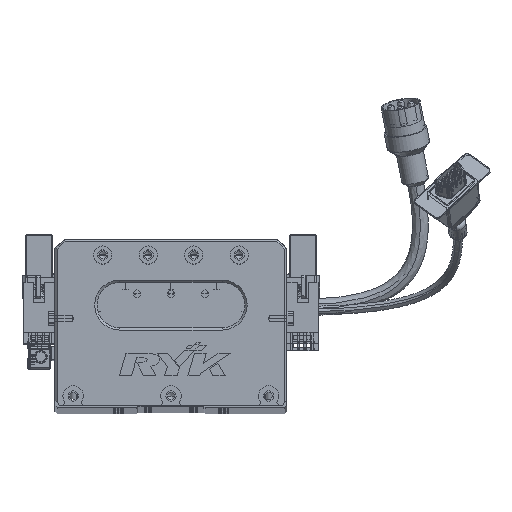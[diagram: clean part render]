
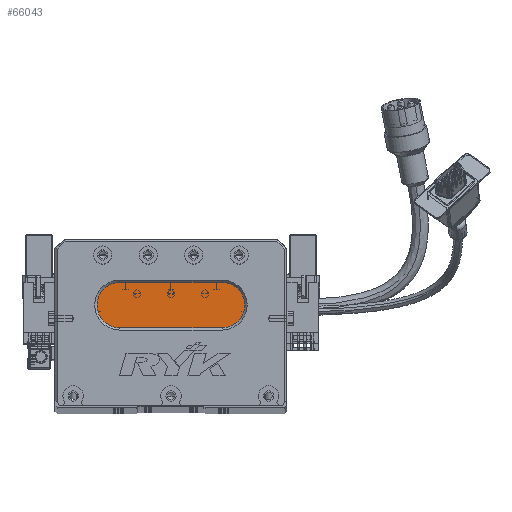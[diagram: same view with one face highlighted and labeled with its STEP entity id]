
A CAD part, top view. The second image highlights one B-rep face of the part: STEP entity #66043.
In plain terms, the highlighted planar face has unit normal (0, 0, 1) as drawn and (0, 0, -1) by its records, which use the part's own axes.
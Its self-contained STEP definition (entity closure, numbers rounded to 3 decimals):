
#3007 = DIRECTION ( 'NONE',  ( -1., 0., 0. ) ) ;
#5047 = DIRECTION ( 'NONE',  ( 0., 0., -1. ) ) ;
#6903 = ORIENTED_EDGE ( 'NONE', *, *, #76494, .T. ) ;
#10412 = CARTESIAN_POINT ( 'NONE',  ( 73.5, 44., 13. ) ) ;
#11423 = LINE ( 'NONE', #37952, #55930 ) ;
#14375 = EDGE_CURVE ( 'NONE', #17563, #52271, #11423, .T. ) ;
#16422 = CARTESIAN_POINT ( 'NONE',  ( 73.5, 44., 13. ) ) ;
#17563 = VERTEX_POINT ( 'NONE', #23756 ) ;
#17708 = DIRECTION ( 'NONE',  ( -1., 0., 0. ) ) ;
#20702 = DIRECTION ( 'NONE',  ( 0., 0., -1. ) ) ;
#20955 = ORIENTED_EDGE ( 'NONE', *, *, #36421, .T. ) ;
#23756 = CARTESIAN_POINT ( 'NONE',  ( 28.5, 54., 13. ) ) ;
#25748 = ORIENTED_EDGE ( 'NONE', *, *, #47347, .T. ) ;
#26698 = VECTOR ( 'NONE', #17708, 1000. ) ;
#28594 = CIRCLE ( 'NONE', #35613, 10. ) ;
#32751 = ORIENTED_EDGE ( 'NONE', *, *, #55091, .T. ) ;
#34186 = DIRECTION ( 'NONE',  ( 0., 0., -1. ) ) ;
#34997 = FACE_OUTER_BOUND ( 'NONE', #65335, .T. ) ;
#35613 = AXIS2_PLACEMENT_3D ( 'NONE', #56279, #20702, #62273 ) ;
#36421 = EDGE_CURVE ( 'NONE', #40143, #17563, #28594, .T. ) ;
#37952 = CARTESIAN_POINT ( 'NONE',  ( 73.5, 54., 13. ) ) ;
#39916 = PLANE ( 'NONE',  #75317 ) ;
#40143 = VERTEX_POINT ( 'NONE', #42699 ) ;
#40934 = DIRECTION ( 'NONE',  ( -1., 0., 0. ) ) ;
#42699 = CARTESIAN_POINT ( 'NONE',  ( 18.5, 44., 13. ) ) ;
#42761 = AXIS2_PLACEMENT_3D ( 'NONE', #67420, #49706, #3007 ) ;
#47347 = EDGE_CURVE ( 'NONE', #72056, #40143, #54579, .T. ) ;
#48336 = CARTESIAN_POINT ( 'NONE',  ( 73.5, 54., 13. ) ) ;
#49706 = DIRECTION ( 'NONE',  ( 0., 0., -1. ) ) ;
#52233 = DIRECTION ( 'NONE',  ( -1., 0., 0. ) ) ;
#52271 = VERTEX_POINT ( 'NONE', #48336 ) ;
#52304 = CARTESIAN_POINT ( 'NONE',  ( 73.5, 34., 13. ) ) ;
#54579 = CIRCLE ( 'NONE', #42761, 10. ) ;
#55091 = EDGE_CURVE ( 'NONE', #52271, #65000, #65092, .T. ) ;
#55930 = VECTOR ( 'NONE', #62148, 1000. ) ;
#56279 = CARTESIAN_POINT ( 'NONE',  ( 28.5, 44., 13. ) ) ;
#56616 = CARTESIAN_POINT ( 'NONE',  ( 28.5, 34., 13. ) ) ;
#59794 = CARTESIAN_POINT ( 'NONE',  ( 73.5, 34., 13. ) ) ;
#62148 = DIRECTION ( 'NONE',  ( 1., 0., 0. ) ) ;
#62273 = DIRECTION ( 'NONE',  ( -1., 0., 0. ) ) ;
#63923 = LINE ( 'NONE', #59794, #26698 ) ;
#65000 = VERTEX_POINT ( 'NONE', #52304 ) ;
#65092 = CIRCLE ( 'NONE', #65700, 10. ) ;
#65335 = EDGE_LOOP ( 'NONE', ( #32751, #6903, #25748, #20955, #76785 ) ) ;
#65700 = AXIS2_PLACEMENT_3D ( 'NONE', #16422, #5047, #52233 ) ;
#66043 = ADVANCED_FACE ( 'NONE', ( #34997 ), #39916, .T. ) ;
#67420 = CARTESIAN_POINT ( 'NONE',  ( 28.5, 44., 13. ) ) ;
#72056 = VERTEX_POINT ( 'NONE', #56616 ) ;
#75317 = AXIS2_PLACEMENT_3D ( 'NONE', #10412, #34186, #40934 ) ;
#76494 = EDGE_CURVE ( 'NONE', #65000, #72056, #63923, .T. ) ;
#76785 = ORIENTED_EDGE ( 'NONE', *, *, #14375, .T. ) ;
